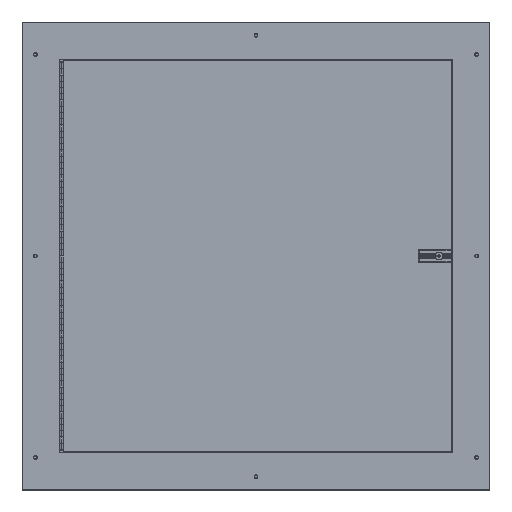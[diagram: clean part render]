
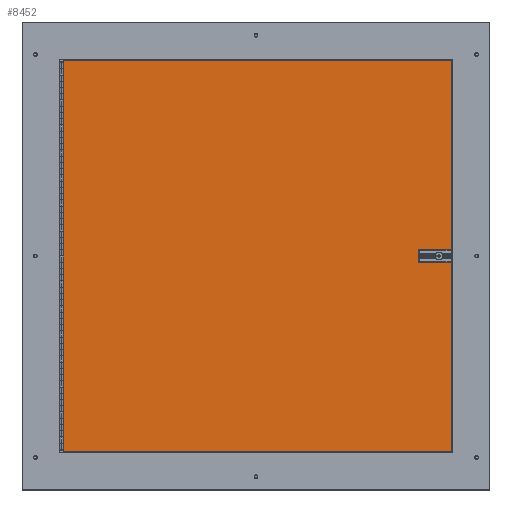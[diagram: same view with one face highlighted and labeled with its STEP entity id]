
A CAD part, top view. The second image highlights one B-rep face of the part: STEP entity #8452.
In plain terms, the highlighted planar face has unit normal (0, 0, 1).
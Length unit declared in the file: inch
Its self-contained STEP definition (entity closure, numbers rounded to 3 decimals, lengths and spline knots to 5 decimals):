
#8387 = VERTEX_POINT ( 'NONE', #19847 ) ;
#8388 = VERTEX_POINT ( 'NONE', #19846 ) ;
#8389 = ORIENTED_EDGE ( 'NONE', *, *, #8390, .F. ) ;
#8390 = EDGE_CURVE ( 'NONE', #8391, #8387, #19845, .T. ) ;
#8391 = VERTEX_POINT ( 'NONE', #19841 ) ;
#8392 = ORIENTED_EDGE ( 'NONE', *, *, #8393, .F. ) ;
#8393 = EDGE_CURVE ( 'NONE', #8394, #8391, #19840, .T. ) ;
#8394 = VERTEX_POINT ( 'NONE', #19836 ) ;
#8395 = ORIENTED_EDGE ( 'NONE', *, *, #8396, .F. ) ;
#8396 = EDGE_CURVE ( 'NONE', #8388, #8394, #19899, .T. ) ;
#8452 = ADVANCED_FACE ( 'NONE', ( #19989, #19988 ), #19987, .F. ) ;
#8453 = EDGE_LOOP ( 'NONE', ( #8454, #8458, #8461, #8464 ) ) ;
#8454 = ORIENTED_EDGE ( 'NONE', *, *, #8455, .T. ) ;
#8455 = EDGE_CURVE ( 'NONE', #8456, #8457, #19981, .T. ) ;
#8456 = VERTEX_POINT ( 'NONE', #19976 ) ;
#8457 = VERTEX_POINT ( 'NONE', #19975 ) ;
#8458 = ORIENTED_EDGE ( 'NONE', *, *, #8459, .T. ) ;
#8459 = EDGE_CURVE ( 'NONE', #8457, #8460, #19974, .T. ) ;
#8460 = VERTEX_POINT ( 'NONE', #19970 ) ;
#8461 = ORIENTED_EDGE ( 'NONE', *, *, #8462, .T. ) ;
#8462 = EDGE_CURVE ( 'NONE', #8460, #8463, #19969, .T. ) ;
#8463 = VERTEX_POINT ( 'NONE', #19965 ) ;
#8464 = ORIENTED_EDGE ( 'NONE', *, *, #8465, .T. ) ;
#8465 = EDGE_CURVE ( 'NONE', #8463, #8456, #19964, .T. ) ;
#8466 = EDGE_LOOP ( 'NONE', ( #8467, #8389, #8392, #8395 ) ) ;
#8467 = ORIENTED_EDGE ( 'NONE', *, *, #8468, .F. ) ;
#8468 = EDGE_CURVE ( 'NONE', #8387, #8388, #20028, .T. ) ;
#19836 = CARTESIAN_POINT ( 'NONE',  ( 15.15, -0.51, 0.097 ) ) ;
#19837 = DIRECTION ( 'NONE',  ( 0., 1., 0. ) ) ;
#19838 = VECTOR ( 'NONE', #19837, 39.37008 ) ;
#19839 = CARTESIAN_POINT ( 'NONE',  ( 15.15, -0.51, 0.097 ) ) ;
#19840 = LINE ( 'NONE', #19839, #19838 ) ;
#19841 = CARTESIAN_POINT ( 'NONE',  ( 15.15, 0.51, 0.097 ) ) ;
#19842 = DIRECTION ( 'NONE',  ( -1., 0., 0. ) ) ;
#19843 = VECTOR ( 'NONE', #19842, 39.37008 ) ;
#19844 = CARTESIAN_POINT ( 'NONE',  ( 13.43, 0.51, 0.097 ) ) ;
#19845 = LINE ( 'NONE', #19844, #19843 ) ;
#19846 = CARTESIAN_POINT ( 'NONE',  ( 13.43, -0.51, 0.097 ) ) ;
#19847 = CARTESIAN_POINT ( 'NONE',  ( 13.43, 0.51, 0.097 ) ) ;
#19896 = DIRECTION ( 'NONE',  ( 1., 0., 0. ) ) ;
#19897 = VECTOR ( 'NONE', #19896, 39.37008 ) ;
#19898 = CARTESIAN_POINT ( 'NONE',  ( 13.43, -0.51, 0.097 ) ) ;
#19899 = LINE ( 'NONE', #19898, #19897 ) ;
#19964 = LINE ( 'NONE', #20031, #20030 ) ;
#19965 = CARTESIAN_POINT ( 'NONE',  ( 15.565, 15.65, 0.097 ) ) ;
#19966 = DIRECTION ( 'NONE',  ( 0., 1., 0. ) ) ;
#19967 = VECTOR ( 'NONE', #19966, 39.37008 ) ;
#19968 = CARTESIAN_POINT ( 'NONE',  ( 15.565, -15.65, 0.097 ) ) ;
#19969 = LINE ( 'NONE', #19968, #19967 ) ;
#19970 = CARTESIAN_POINT ( 'NONE',  ( 15.565, -15.65, 0.097 ) ) ;
#19971 = DIRECTION ( 'NONE',  ( 1., 0., 0. ) ) ;
#19972 = VECTOR ( 'NONE', #19971, 39.37008 ) ;
#19973 = CARTESIAN_POINT ( 'NONE',  ( -15.565, -15.65, 0.097 ) ) ;
#19974 = LINE ( 'NONE', #19973, #19972 ) ;
#19975 = CARTESIAN_POINT ( 'NONE',  ( -15.565, -15.65, 0.097 ) ) ;
#19976 = CARTESIAN_POINT ( 'NONE',  ( -15.565, 15.65, 0.097 ) ) ;
#19977 = DIRECTION ( 'NONE',  ( 0., -1., 0. ) ) ;
#19978 = VECTOR ( 'NONE', #19977, 39.37008 ) ;
#19980 = CARTESIAN_POINT ( 'NONE',  ( -15.565, -15.65, 0.097 ) ) ;
#19981 = LINE ( 'NONE', #19980, #19978 ) ;
#19983 = DIRECTION ( 'NONE',  ( -1., 0., 0. ) ) ;
#19984 = DIRECTION ( 'NONE',  ( 0., 0., -1. ) ) ;
#19985 = CARTESIAN_POINT ( 'NONE',  ( -15.565, 15.65, 0.097 ) ) ;
#19986 = AXIS2_PLACEMENT_3D ( 'NONE', #19985, #19984, #19983 ) ;
#19987 = PLANE ( 'NONE',  #19986 ) ;
#19988 = FACE_BOUND ( 'NONE', #8466, .T. ) ;
#19989 = FACE_OUTER_BOUND ( 'NONE', #8453, .T. ) ;
#20025 = DIRECTION ( 'NONE',  ( 0., -1., 0. ) ) ;
#20026 = VECTOR ( 'NONE', #20025, 39.37008 ) ;
#20027 = CARTESIAN_POINT ( 'NONE',  ( 13.43, -0.51, 0.097 ) ) ;
#20028 = LINE ( 'NONE', #20027, #20026 ) ;
#20029 = DIRECTION ( 'NONE',  ( -1., 0., 0. ) ) ;
#20030 = VECTOR ( 'NONE', #20029, 39.37008 ) ;
#20031 = CARTESIAN_POINT ( 'NONE',  ( -15.565, 15.65, 0.097 ) ) ;
